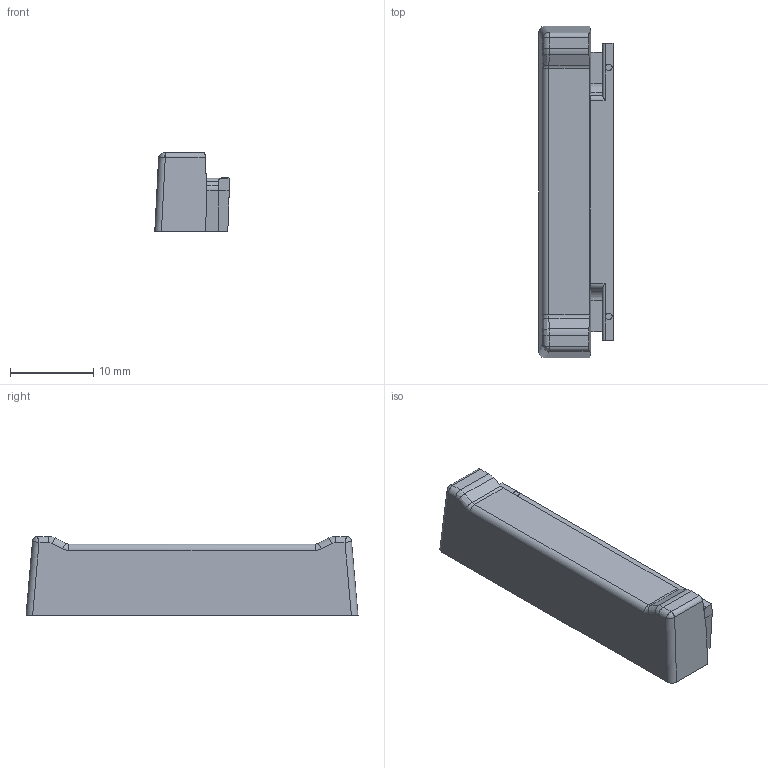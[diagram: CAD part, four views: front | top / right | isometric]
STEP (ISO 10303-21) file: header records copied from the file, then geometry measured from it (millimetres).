
FILE_DESCRIPTION(('CATIA V5 STEP Exchange'),'2;1');
FILE_NAME('C:\Users\jouko.kotitalo\Desktop\pdf_exports\F15857_LINNEA-END-FS Mechanical model.stp','2017-02-16T13:58:52+00:00',('none'),('none'),'CATIA Version 5-6 Release 2013 SP4','CATIA V5 STEP AP203','none');
FILE_SCHEMA(('CONFIG_CONTROL_DESIGN'));
Length unit declared in the file: millimetre
Products named in the file (1): F15857
Bounding box: 8.97 x 40 x 9.5 mm (x, y, z)
Volume: 1226 mm3; surface area: 1802.4 mm2
Topology: 1 solids, 1 shells, 120 faces, 304 edges, 186 vertices
Faces by surface type: plane 44, cylinder 44, bspline 24, sphere 4, cone 4
Entity records: 4553 total; most frequent: CARTESIAN_POINT 2060, ORIENTED_EDGE 604, DIRECTION 332, EDGE_CURVE 302, VERTEX_POINT 186, B_SPLINE_CURVE_WITH_KNOTS 152, VECTOR 128, LINE 128
